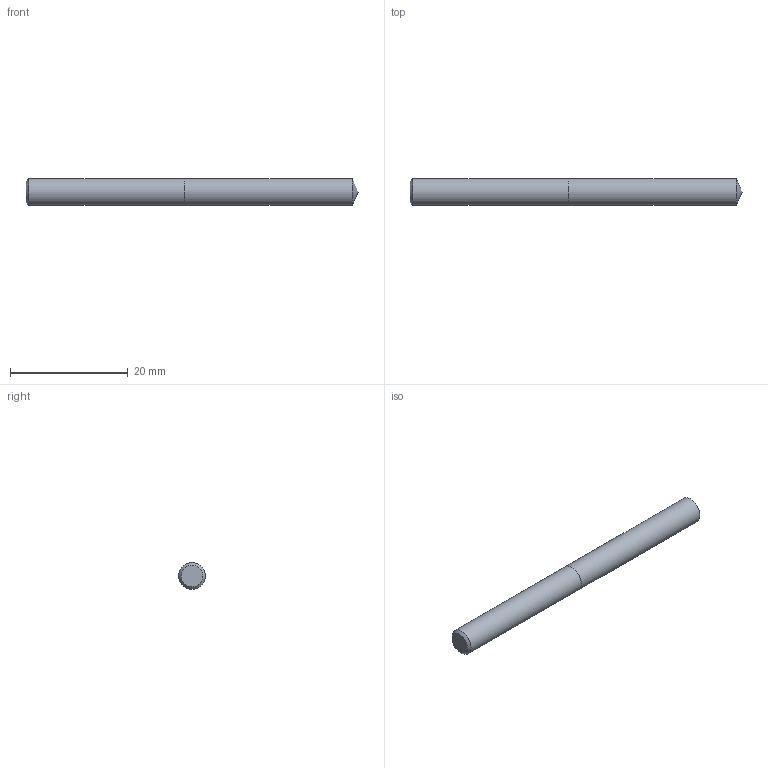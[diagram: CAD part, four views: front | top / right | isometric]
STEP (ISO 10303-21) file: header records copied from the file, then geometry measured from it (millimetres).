
FILE_DESCRIPTION (( 'STEP AP214' ), '1' );
FILE_NAME ('03-2357.STEP', '2022-06-03T06:40:36', ( 'USER' ), ( '' ), 'SwSTEP 2.0', 'SolidWorks 2018', '' );
FILE_SCHEMA (( 'AUTOMOTIVE_DESIGN' ));
Length unit declared in the file: inch
Products named in the file (1): 03-2357
Bounding box: 56.51 x 4.57 x 4.57 mm (x, y, z)
Volume: 916 mm3; surface area: 861 mm2
Topology: 2 solids, 2 shells, 7 faces, 11 edges, 7 vertices
Faces by surface type: plane 3, cylinder 2, cone 2
Full cylindrical faces by diameter (mm): 4.572 x2
Entity records: 214 total; most frequent: DIRECTION 26, CARTESIAN_POINT 18, AXIS2_PLACEMENT_3D 13, ORIENTED_EDGE 10, EDGE_LOOP 10, FACE_OUTER_BOUND 9, DIMENSIONAL_EXPONENTS 7, LENGTH_MEASURE_WITH_UNIT 7
